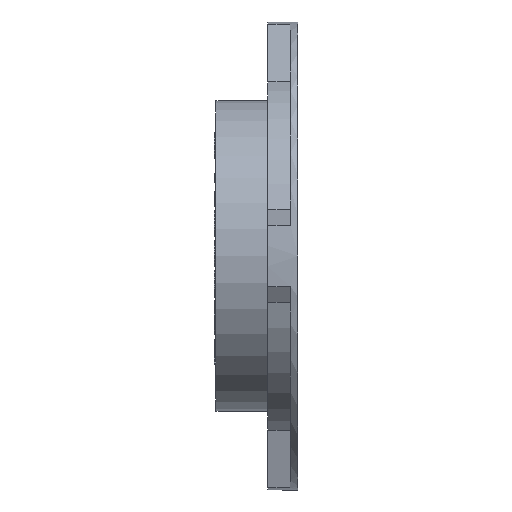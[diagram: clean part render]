
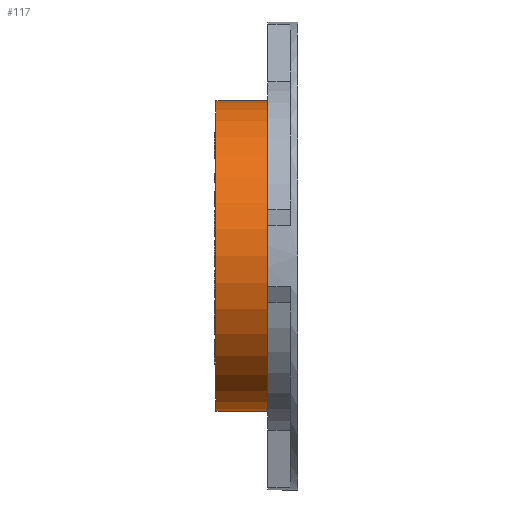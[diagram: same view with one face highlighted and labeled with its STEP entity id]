
A CAD part, front view. The second image highlights one B-rep face of the part: STEP entity #117.
In plain terms, the highlighted cylindrical face has radius 25.25 mm (diameter 50.5 mm), a partial arc.
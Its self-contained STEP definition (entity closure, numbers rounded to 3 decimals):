
#24 = EDGE_CURVE ( 'NONE', #1618, #1619, #5398, .T. ) ;
#117 = ADVANCED_FACE ( 'NONE', ( #3406 ), #3405, .T. ) ;
#1615 = VERTEX_POINT ( 'NONE', #7157 ) ;
#1618 = VERTEX_POINT ( 'NONE', #7232 ) ;
#1619 = VERTEX_POINT ( 'NONE', #7100 ) ;
#1622 = VERTEX_POINT ( 'NONE', #7146 ) ;
#1688 = EDGE_LOOP ( 'NONE', ( #1835, #1955, #1923, #1806 ) ) ;
#1806 = ORIENTED_EDGE ( 'NONE', *, *, #6603, .F. ) ;
#1835 = ORIENTED_EDGE ( 'NONE', *, *, #24, .F. ) ;
#1923 = ORIENTED_EDGE ( 'NONE', *, *, #6675, .T. ) ;
#1955 = ORIENTED_EDGE ( 'NONE', *, *, #6708, .T. ) ;
#2571 = DIRECTION ( 'NONE',  ( 0., 0., 1. ) ) ;
#2572 = DIRECTION ( 'NONE',  ( -1., 0., 0. ) ) ;
#2573 = CARTESIAN_POINT ( 'NONE',  ( 8.4, 0., 0. ) ) ;
#2760 = CARTESIAN_POINT ( 'NONE',  ( 0., 0., 25.25 ) ) ;
#2764 = LINE ( 'NONE', #2760, #3339 ) ;
#3058 = DIRECTION ( 'NONE',  ( -1., 0., 0. ) ) ;
#3339 = VECTOR ( 'NONE', #3058, 1000. ) ;
#3405 = CYLINDRICAL_SURFACE ( 'NONE', #3407, 25.25 ) ;
#3406 = FACE_OUTER_BOUND ( 'NONE', #1688, .T. ) ;
#3407 = AXIS2_PLACEMENT_3D ( 'NONE', #4375, #4421, #4376 ) ;
#3420 = AXIS2_PLACEMENT_3D ( 'NONE', #3743, #3882, #3736 ) ;
#3736 = DIRECTION ( 'NONE',  ( 0., 0., 1. ) ) ;
#3743 = CARTESIAN_POINT ( 'NONE',  ( 0., 0., 0. ) ) ;
#3882 = DIRECTION ( 'NONE',  ( -1., 0., 0. ) ) ;
#4375 = CARTESIAN_POINT ( 'NONE',  ( 0., 0., 0. ) ) ;
#4376 = DIRECTION ( 'NONE',  ( 0., 0., 1. ) ) ;
#4421 = DIRECTION ( 'NONE',  ( -1., 0., 0. ) ) ;
#5219 = AXIS2_PLACEMENT_3D ( 'NONE', #2573, #2572, #2571 ) ;
#5398 = LINE ( 'NONE', #5400, #6807 ) ;
#5399 = DIRECTION ( 'NONE',  ( -1., 0., 0. ) ) ;
#5400 = CARTESIAN_POINT ( 'NONE',  ( 0., 0., -25.25 ) ) ;
#6444 = CIRCLE ( 'NONE', #3420, 25.25 ) ;
#6490 = CIRCLE ( 'NONE', #5219, 25.25 ) ;
#6603 = EDGE_CURVE ( 'NONE', #1619, #1615, #6444, .T. ) ;
#6675 = EDGE_CURVE ( 'NONE', #1622, #1615, #2764, .T. ) ;
#6708 = EDGE_CURVE ( 'NONE', #1618, #1622, #6490, .T. ) ;
#6807 = VECTOR ( 'NONE', #5399, 1000. ) ;
#7100 = CARTESIAN_POINT ( 'NONE',  ( 0., 0., -25.25 ) ) ;
#7146 = CARTESIAN_POINT ( 'NONE',  ( 8.4, 0., 25.25 ) ) ;
#7157 = CARTESIAN_POINT ( 'NONE',  ( 0., 0., 25.25 ) ) ;
#7232 = CARTESIAN_POINT ( 'NONE',  ( 8.4, 0., -25.25 ) ) ;
